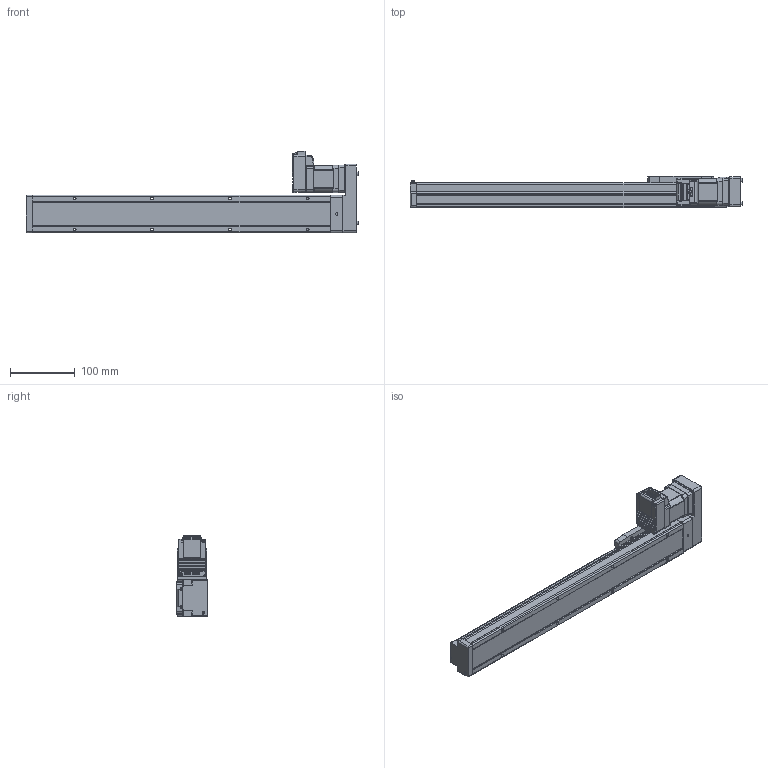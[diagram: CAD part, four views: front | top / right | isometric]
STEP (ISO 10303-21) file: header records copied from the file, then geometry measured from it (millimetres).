
FILE_DESCRIPTION (( 'STEP AP214' ), '1' );
FILE_NAME ('LEFS3(+)-25LNM1□-350-17L.STEP', '2023-05-31T05:05:32', ( '' ), ( '' ), 'SwSTEP 2.0', 'SolidWorks 2019', '' );
FILE_SCHEMA (( 'AUTOMOTIVE_DESIGN' ));
Length unit declared in the file: millimetre
Products named in the file (5): CM3(+)-17L50A; LEFS3(+)-25R(L)NM1仩_MOTOR Flange; LEFS3(+)-25R(L)NM1仩_BODY_350; LEFS3(+)-25NM1_TABLE; LEFS3(+)-25LNM1□-350-17L
Assembly tree (4 placements, depth 2):
  LEFS3(+)-25LNM1□-350-17L
    LEFS3(+)-25R(L)NM1仩_BODY_350
    LEFS3(+)-25NM1_TABLE
    LEFS3(+)-25R(L)NM1仩_MOTOR Flange
    CM3(+)-17L50A
Bounding box: 512.9 x 48 x 125.85 mm (x, y, z)
Volume: 1208299.8 mm3; surface area: 162916.7 mm2
Topology: 5 solids, 5 shells, 1019 faces, 2620 edges, 1652 vertices
Faces by surface type: plane 529, cylinder 318, cone 83, torus 39, bspline 29, sphere 21
Entity records: 41661 total; most frequent: CARTESIAN_POINT 7482, ORIENTED_EDGE 5178, DIRECTION 5000, EDGE_CURVE 2589, AXIS2_PLACEMENT_3D 1682, VERTEX_POINT 1652, LINE 1636, VECTOR 1636
